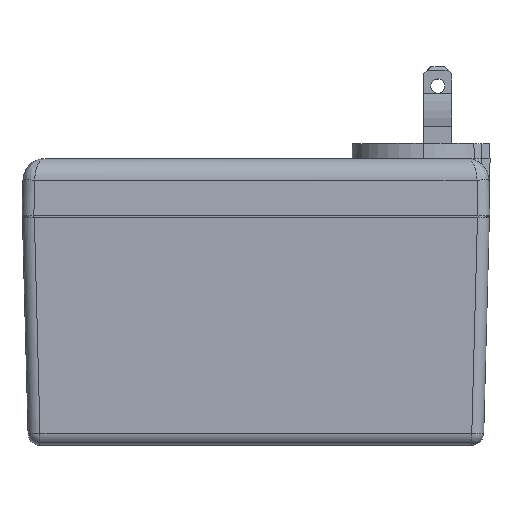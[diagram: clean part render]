
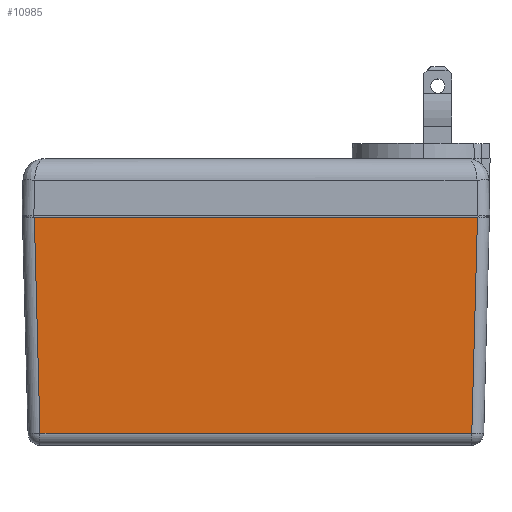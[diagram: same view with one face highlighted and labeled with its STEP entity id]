
A CAD part, top view. The second image highlights one B-rep face of the part: STEP entity #10985.
In plain terms, the highlighted planar face has unit normal (0, -0.026, 1).
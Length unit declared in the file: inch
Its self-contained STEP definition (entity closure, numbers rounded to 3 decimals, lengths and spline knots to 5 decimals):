
#2925 = VERTEX_POINT ( 'NONE', #14771 ) ;
#2929 = VERTEX_POINT ( 'NONE', #14775 ) ;
#2955 = VERTEX_POINT ( 'NONE', #14813 ) ;
#2961 = VERTEX_POINT ( 'NONE', #14823 ) ;
#5477 = DIRECTION ( 'NONE',  ( 1., 0., 0. ) ) ;
#5479 = CARTESIAN_POINT ( 'NONE',  ( -2.0545, 0., 1.116 ) ) ;
#5480 = DIRECTION ( 'NONE',  ( 0.026, -0.999, -0.026 ) ) ;
#5482 = CARTESIAN_POINT ( 'NONE',  ( -1.94961, 0.00274, 1.11607 ) ) ;
#5483 = DIRECTION ( 'NONE',  ( 0.026, 0.999, 0.026 ) ) ;
#5485 = CARTESIAN_POINT ( 'NONE',  ( 1.94679, -0.10471, 1.11326 ) ) ;
#5527 = DIRECTION ( 'NONE',  ( 1., 0., 0. ) ) ;
#5533 = CARTESIAN_POINT ( 'NONE',  ( -2.0545, -1.90275, 1.06617 ) ) ;
#7122 = PLANE ( 'NONE',  #13363 ) ;
#7123 = CARTESIAN_POINT ( 'NONE',  ( -2.0545, 0., 1.116 ) ) ;
#7192 = DIRECTION ( 'NONE',  ( 0., -0.026, 1. ) ) ;
#7266 = DIRECTION ( 'NONE',  ( 0., -1., -0.026 ) ) ;
#10985 = ADVANCED_FACE ( 'NONE', ( #17608 ), #7122, .T. ) ;
#11571 = EDGE_LOOP ( 'NONE', ( #16580, #16579, #16578, #16577 ) ) ;
#12708 = EDGE_CURVE ( 'NONE', #2929, #2925, #17354, .T. ) ;
#12722 = EDGE_CURVE ( 'NONE', #2925, #2955, #17330, .T. ) ;
#12723 = EDGE_CURVE ( 'NONE', #2961, #2929, #17328, .T. ) ;
#12724 = EDGE_CURVE ( 'NONE', #2961, #2955, #17326, .T. ) ;
#13363 = AXIS2_PLACEMENT_3D ( 'NONE', #7123, #7192, #7266 ) ;
#14771 = CARTESIAN_POINT ( 'NONE',  ( 1.89971, -1.90275, 1.06617 ) ) ;
#14775 = CARTESIAN_POINT ( 'NONE',  ( -1.89971, -1.90275, 1.06617 ) ) ;
#14813 = CARTESIAN_POINT ( 'NONE',  ( 1.94954, 0., 1.116 ) ) ;
#14823 = CARTESIAN_POINT ( 'NONE',  ( -1.94954, 0., 1.116 ) ) ;
#16577 = ORIENTED_EDGE ( 'NONE', *, *, #12723, .T. ) ;
#16578 = ORIENTED_EDGE ( 'NONE', *, *, #12724, .F. ) ;
#16579 = ORIENTED_EDGE ( 'NONE', *, *, #12722, .T. ) ;
#16580 = ORIENTED_EDGE ( 'NONE', *, *, #12708, .T. ) ;
#17325 = VECTOR ( 'NONE', #5477, 39.37008 ) ;
#17326 = LINE ( 'NONE', #5479, #17325 ) ;
#17327 = VECTOR ( 'NONE', #5480, 39.37008 ) ;
#17328 = LINE ( 'NONE', #5482, #17327 ) ;
#17329 = VECTOR ( 'NONE', #5483, 39.37008 ) ;
#17330 = LINE ( 'NONE', #5485, #17329 ) ;
#17354 = LINE ( 'NONE', #5533, #17357 ) ;
#17357 = VECTOR ( 'NONE', #5527, 39.37008 ) ;
#17608 = FACE_OUTER_BOUND ( 'NONE', #11571, .T. ) ;
